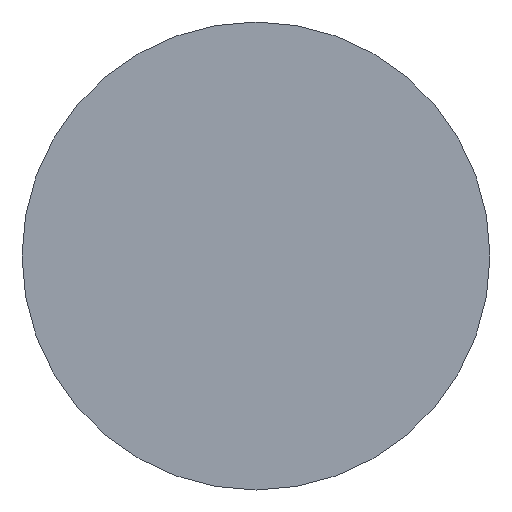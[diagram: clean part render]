
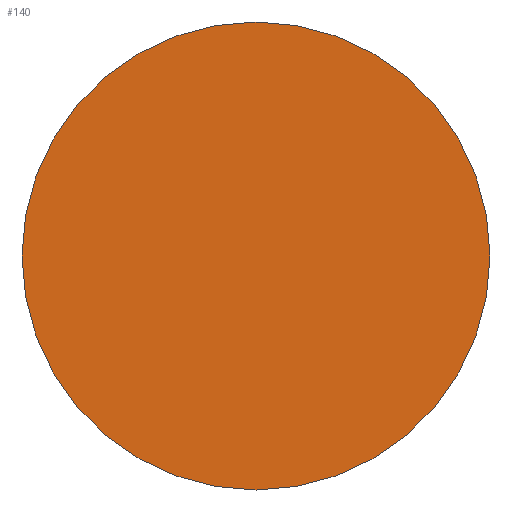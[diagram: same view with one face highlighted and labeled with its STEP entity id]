
A CAD part, left-side view. The second image highlights one B-rep face of the part: STEP entity #140.
In plain terms, the highlighted planar face has unit normal (-1, 0, 0).
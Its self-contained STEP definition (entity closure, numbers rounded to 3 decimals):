
#31 = CYLINDRICAL_SURFACE('',#32,1.8);
#32 = AXIS2_PLACEMENT_3D('',#33,#34,#35);
#33 = CARTESIAN_POINT('',(-9.5,6.,12.5));
#34 = DIRECTION('',(1.,0.,0.));
#35 = DIRECTION('',(-0.,0.,1.));
#56 = VERTEX_POINT('',#57);
#57 = CARTESIAN_POINT('',(-9.5,6.,14.3));
#78 = EDGE_CURVE('',#56,#56,#79,.T.);
#79 = SURFACE_CURVE('',#80,(#85,#92),.PCURVE_S1.);
#80 = CIRCLE('',#81,1.8);
#81 = AXIS2_PLACEMENT_3D('',#82,#83,#84);
#82 = CARTESIAN_POINT('',(-9.5,6.,12.5));
#83 = DIRECTION('',(1.,0.,0.));
#84 = DIRECTION('',(-0.,0.,1.));
#85 = PCURVE('',#31,#86);
#86 = DEFINITIONAL_REPRESENTATION('',(#87),#91);
#87 = LINE('',#88,#89);
#88 = CARTESIAN_POINT('',(0.,0.));
#89 = VECTOR('',#90,1.);
#90 = DIRECTION('',(1.,0.));
#91 = ( GEOMETRIC_REPRESENTATION_CONTEXT(2) 
PARAMETRIC_REPRESENTATION_CONTEXT() REPRESENTATION_CONTEXT('2D SPACE',''
  ) );
#92 = PCURVE('',#93,#98);
#93 = PLANE('',#94);
#94 = AXIS2_PLACEMENT_3D('',#95,#96,#97);
#95 = CARTESIAN_POINT('',(-9.5,6.,12.5));
#96 = DIRECTION('',(1.,0.,0.));
#97 = DIRECTION('',(-0.,0.,1.));
#98 = DEFINITIONAL_REPRESENTATION('',(#99),#103);
#99 = CIRCLE('',#100,1.8);
#100 = AXIS2_PLACEMENT_2D('',#101,#102);
#101 = CARTESIAN_POINT('',(0.,0.));
#102 = DIRECTION('',(1.,0.));
#103 = ( GEOMETRIC_REPRESENTATION_CONTEXT(2) 
PARAMETRIC_REPRESENTATION_CONTEXT() REPRESENTATION_CONTEXT('2D SPACE',''
  ) );
#140 = ADVANCED_FACE('',(#141),#93,.F.);
#141 = FACE_BOUND('',#142,.T.);
#142 = EDGE_LOOP('',(#143));
#143 = ORIENTED_EDGE('',*,*,#78,.F.);
